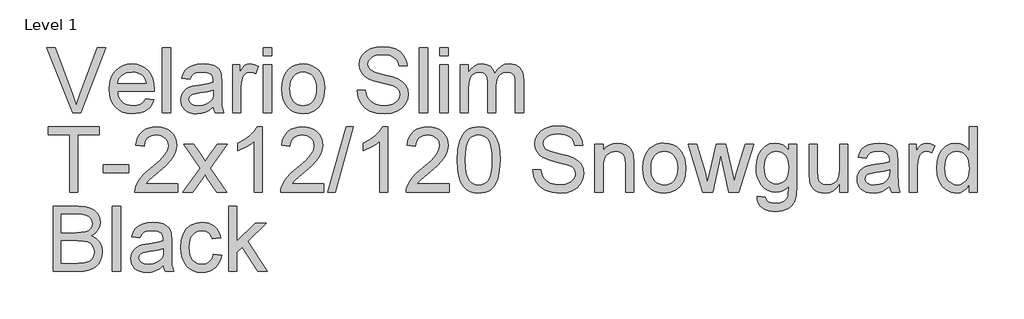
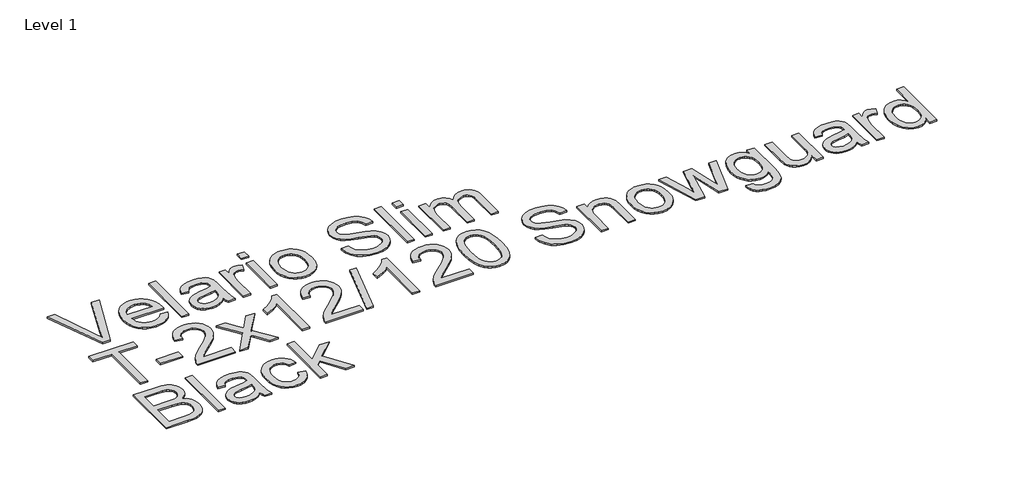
# One storey, part 6 of 13: 1 proxy.
"""IFC4 building model written with IfcOpenShell, lengths in millimetres."""

from ifc_helpers import new_model, si_unit, frame, origin, place, context, project, spatial, polyline, outline, extrude, element, save

model = new_model("IFC4")

# Units and contexts
model_context = context("Model", 3, world=origin())
ifc_project = project(units=[si_unit("LENGTHUNIT", "METRE", prefix="MILLI")], contexts=[model_context])

# Site, building, storey
site = spatial("IfcSite", under=ifc_project)
building = spatial("IfcBuilding", under=site)
storey = spatial("IfcBuildingStorey", under=building, Name="Level 1", Elevation=4000.0)

# Proxy
placement = place(None, origin())
element("IfcBuildingElementProxy", 1, Name="Elysium 400mm Arial", ObjectType="Elysium 400mm Arial", at=placement, inside=storey, context=model_context, shape_type="SweptSolid", body=[
    extrude(outline(polyline([(56201.8504181, -17959.2083158), (56041.9443775, -17557.3830752), (56095.7041998, -17557.3830752), (56202.7333349, -17846.8816799), (56224.4138471, -17912.1194204), (56245.8000538, -17846.8816799), (56353.1234945, -17557.3830752), (56406.8833168, -17557.3830752), (56253.7463049, -17959.2083158), (56201.8504181, -17959.2083158)])), frame((0.0, 0.0, 4000.0), z_axis=(0.0, 0.0, 1.0), x_axis=(1.0, 0.0, 0.0)), (0.0, 0.0, 1.0), 10.0),
    extrude(outline(polyline([(56653.9038138, -17871.3090444), (56703.1509502, -17877.5875638), (56695.6001723, -17897.3121701), (56685.4067753, -17914.6945943), (56672.5707594, -17929.7348366), (56657.0921244, -17942.4328968), (56639.130286, -17952.5189948), (56618.8446596, -17959.7233505), (56571.3020431, -17965.4868351), (56540.1363068, -17963.000566), (56512.3673475, -17955.5417585), (56487.9951653, -17943.1104128), (56467.0197602, -17925.7065287), (56450.1523708, -17903.8144843), (56438.1042354, -17877.9186575), (56430.8753542, -17848.0190484), (56428.4657271, -17814.1156569), (56430.8998797, -17779.0626341), (56438.2023373, -17748.1666779), (56450.3731, -17721.4277882), (56467.4121677, -17698.845965), (56488.3323905, -17680.9055864), (56512.1466183, -17668.0910302), (56538.8548512, -17660.4022965), (56568.457089, -17657.8393853), (56597.1058994, -17660.3961652), (56623.0139889, -17668.0665048), (56646.1813576, -17680.8504041), (56666.6080054, -17698.7478632), (56683.2822568, -17721.2806354), (56695.1924364, -17747.9704741), (56702.3385441, -17778.8173794), (56704.7205801, -17813.8213513), (56704.4262745, -17827.3594087), (56478.6938822, -17827.3594087), (56481.6032157, -17847.402846), (56487.38816, -17864.9569486), (56496.0487153, -17880.0217163), (56507.5848816, -17892.5971492), (56521.3589966, -17902.5115689), (56536.7333983, -17909.5932973), (56572.2830618, -17915.2586801), (56599.0158201, -17912.6344552), (56621.5301982, -17904.7617805), (56639.8261961, -17891.1501466), (56653.9038138, -17871.3090444)]), holes=[polyline([(56478.6938822, -17777.1312536), (56654.492425, -17777.1312536), (56647.6988708, -17750.594699), (56634.3815426, -17731.6119881), (56620.6840696, -17721.3112922), (56605.0981358, -17713.9536523), (56587.623741, -17709.5390684), (56568.2608853, -17708.0675404), (56534.403479, -17712.7641672), (56506.4076592, -17726.8540476), (56486.9467016, -17748.8166027), (56478.6938822, -17777.1312536)])]), frame((0.0, 0.0, 4000.0), z_axis=(0.0, 0.0, 1.0), x_axis=(1.0, 0.0, 0.0)), (0.0, 0.0, 1.0), 10.0),
    extrude(outline(polyline([(56754.9487351, -17959.2083158), (56754.9487351, -17557.3830752), (56805.1768902, -17557.3830752), (56805.1768902, -17959.2083158), (56754.9487351, -17959.2083158)])), frame((0.0, 0.0, 4000.0), z_axis=(0.0, 0.0, 1.0), x_axis=(1.0, 0.0, 0.0)), (0.0, 0.0, 1.0), 10.0),
    extrude(outline(polyline([(57068.8747043, -17921.5371994), (57044.8765355, -17942.1140657), (57020.1671282, -17955.5785467), (56994.1823966, -17963.009763), (56966.358255, -17965.4868351), (56943.9940954, -17963.9969131), (56924.3829194, -17959.5271468), (56907.5247269, -17952.0775364), (56893.4195181, -17941.6480818), (56882.2818907, -17928.9009707), (56874.3264426, -17914.4983906), (56869.5531737, -17898.4403415), (56867.962084, -17880.7268234), (56870.3655797, -17859.9047025), (56877.5760669, -17840.995568), (56888.6983658, -17824.8087602), (56902.8372972, -17812.1536195), (56919.4533006, -17802.5886877), (56938.0068159, -17795.6725062), (56981.4659423, -17788.1186625), (57032.8222688, -17780.1724114), (57068.5803987, -17770.8527342), (57068.8747043, -17759.6691216), (57065.4166136, -17737.2528453), (57055.0423413, -17722.5866165), (57031.8412502, -17711.6973094), (56999.5166855, -17708.0675404), (56969.5956166, -17710.4832988), (56948.6999193, -17717.7305741), (56934.4506233, -17731.1337415), (56924.4687585, -17752.0171761), (56874.2406034, -17745.7386567), (56882.9594067, -17718.2701344), (56895.9701666, -17696.687724), (56914.4868937, -17680.1820851), (56939.7235986, -17667.9438774), (56970.588898, -17660.3655083), (57005.9914086, -17657.8393853), (57039.9469168, -17660.0712027), (57066.8636161, -17666.7666551), (57087.1584395, -17676.834359), (57101.2483199, -17689.1829313), (57110.5925226, -17704.4500341), (57116.6503128, -17723.2733295), (57119.1028594, -17767.2229652), (57119.1028594, -17829.7138534), (57121.6535079, -17916.9754627), (57131.6598982, -17959.2083158), (57081.4317431, -17959.2083158), (57073.3873902, -17941.7461837), (57068.8747043, -17921.5371994)]), holes=[polyline([(57068.8747043, -17821.0808893), (57035.1276627, -17829.4440733), (56987.8425635, -17836.4828822), (56944.6286918, -17844.625337), (56933.3837655, -17850.1926178), (56925.0573697, -17857.8690888), (56919.9070218, -17867.0661387), (56918.1902391, -17877.1951563), (56921.9303727, -17892.1311653), (56933.1507736, -17904.369373), (56951.606187, -17912.5363533), (56977.0513583, -17915.2586801), (57004.0293713, -17912.2543104), (57027.8681246, -17903.2412016), (57047.1941921, -17889.9606615), (57060.6341477, -17874.1539985), (57066.593836, -17857.8690888), (57068.5803987, -17835.3056598), (57068.8747043, -17821.0808893)])]), frame((0.0, 0.0, 4000.0), z_axis=(0.0, 0.0, 1.0), x_axis=(1.0, 0.0, 0.0)), (0.0, 0.0, 1.0), 10.0),
    extrude(outline(polyline([(57188.1665726, -17959.2083158), (57188.1665726, -17664.1179047), (57232.1162083, -17664.1179047), (57232.1162083, -17707.7732348), (57248.3520671, -17682.4629535), (57263.3126015, -17667.55147), (57278.3221869, -17660.2674065), (57294.7051984, -17657.8393853), (57319.7211741, -17661.714409), (57345.1295573, -17673.33948), (57328.3541383, -17718.3682362), (57310.6958025, -17710.6427143), (57293.0374667, -17708.0675404), (57278.0401441, -17710.5446125), (57264.6369767, -17717.9758288), (57253.8089833, -17729.7971036), (57246.5371825, -17745.4443511), (57240.4303414, -17773.5014846), (57238.3947277, -17804.1092666), (57238.3947277, -17959.2083158), (57188.1665726, -17959.2083158)])), frame((0.0, 0.0, 4000.0), z_axis=(0.0, 0.0, 1.0), x_axis=(1.0, 0.0, 0.0)), (0.0, 0.0, 1.0), 10.0),
    extrude(outline(polyline([(57376.5221542, -17607.6112302), (57376.5221542, -17557.3830752), (57426.7503093, -17557.3830752), (57426.7503093, -17607.6112302), (57376.5221542, -17607.6112302)])), frame((0.0, 0.0, 4000.0), z_axis=(0.0, 0.0, 1.0), x_axis=(1.0, 0.0, 0.0)), (0.0, 0.0, 1.0), 10.0),
    extrude(outline(polyline([(57376.5221542, -17959.2083158), (57376.5221542, -17664.1179047), (57426.7503093, -17664.1179047), (57426.7503093, -17959.2083158), (57376.5221542, -17959.2083158)])), frame((0.0, 0.0, 4000.0), z_axis=(0.0, 0.0, 1.0), x_axis=(1.0, 0.0, 0.0)), (0.0, 0.0, 1.0), 10.0),
    extrude(outline(polyline([(57489.5355031, -17811.6631102), (57492.2516985, -17773.4463023), (57500.4002847, -17740.5147324), (57513.9812617, -17712.8684004), (57532.9946295, -17690.5073065), (57552.1367559, -17676.215091), (57573.2654452, -17666.0063656), (57596.3806972, -17659.8811304), (57621.482512, -17657.8393853), (57649.1932233, -17660.3256545), (57674.2490529, -17667.7844619), (57696.6500007, -17680.2158077), (57716.3960668, -17697.6196917), (57732.5123639, -17719.4075029), (57744.0240046, -17744.99063), (57750.9309891, -17774.369073), (57753.2333172, -17807.5428319), (57749.1620898, -17858.2860217), (57736.9484076, -17896.9136312), (57716.9478898, -17925.8414188), (57689.5161557, -17947.4851428), (57656.9340736, -17960.9864121), (57621.482512, -17965.4868351), (57593.3671306, -17963.009763), (57568.0783091, -17955.5785467), (57545.6160476, -17943.1931862), (57525.9803461, -17925.8536815), (57510.0357273, -17903.8543382), (57498.6467138, -17877.4894619), (57491.8133058, -17846.7590526), (57489.5355031, -17811.6631102)]), holes=[polyline([(57539.7636582, -17811.5650084), (57541.2167921, -17835.9279935), (57545.5761937, -17857.0229602), (57552.8418631, -17874.8499086), (57563.0138003, -17889.4088385), (57575.386898, -17900.7181442), (57589.2560493, -17908.7962197), (57604.6212539, -17913.643065), (57621.482512, -17915.2586801), (57638.257931, -17913.6338679), (57653.561822, -17908.7594315), (57667.394185, -17900.6353708), (57679.7550201, -17889.2616857), (57689.9269572, -17874.5586687), (57697.1926266, -17856.4466118), (57701.5520283, -17834.925515), (57703.0051622, -17809.9953785), (57701.5428312, -17786.4049456), (57697.1558384, -17765.8618018), (57689.8441838, -17748.3659473), (57679.6078673, -17733.9173819), (57667.201047, -17722.6080762), (57653.377881, -17714.5300008), (57638.1383694, -17709.6831555), (57621.482512, -17708.0675404), (57604.6212539, -17709.6770241), (57589.2560493, -17714.5054753), (57575.386898, -17722.5528939), (57563.0138003, -17733.81928), (57552.8418631, -17748.3352904), (57545.5761937, -17766.1315819), (57541.2167921, -17787.2081546), (57539.7636582, -17811.5650084)])]), frame((0.0, 0.0, 4000.0), z_axis=(0.0, 0.0, 1.0), x_axis=(1.0, 0.0, 0.0)), (0.0, 0.0, 1.0), 10.0),
    extrude(outline(polyline([(57954.1459375, -17821.0808893), (58004.3740926, -17821.0808893), (58010.1375772, -17848.9540818), (58020.5609004, -17871.3580953), (58036.8212846, -17889.1390584), (58060.0959521, -17903.1430997), (58088.5454931, -17912.229785), (58120.3304975, -17915.2586801), (58148.3140546, -17912.965549), (58172.8149955, -17906.0861556), (58192.6683605, -17895.1968486), (58206.70919, -17880.8739762), (58215.0601112, -17864.4296511), (58217.8437517, -17847.1759855), (58215.759087, -17830.3637783), (58209.5050931, -17815.8324395), (58196.8009016, -17803.4348163), (58175.365644, -17793.0237558), (58102.2307033, -17773.8448411), (58054.222103, -17761.1529123), (58023.5039564, -17749.0741201), (57998.5002434, -17732.1760738), (57980.780594, -17711.6973094), (57970.2223807, -17688.0792853), (57966.7029763, -17661.7634599), (57971.0562466, -17632.345163), (57984.1160574, -17604.9134289), (58005.5390523, -17581.6632868), (58034.9818746, -17564.789766), (58070.3230716, -17554.5258583), (58109.4411904, -17551.1045558), (58151.8211963, -17554.6852739), (58188.9037014, -17565.4274281), (58219.3643306, -17583.1102893), (58241.8787087, -17607.5131284), (58256.1280046, -17637.1153662), (58261.7933874, -17670.3964241), (58211.5652323, -17670.3964241), (58202.3436569, -17640.4263042), (58193.9804729, -17628.5682412), (58183.1156913, -17618.7948429), (58153.0719951, -17605.6982439), (58111.4032277, -17601.3327108), (58068.7534418, -17605.6491929), (58052.450138, -17611.0447955), (58039.4945604, -17618.5986391), (58022.5719886, -17637.6549265), (58016.9311314, -17660.2919319), (58020.9287824, -17679.5934739), (58032.9217354, -17695.1180941), (58061.2731745, -17708.9995081), (58114.9348949, -17723.1752276), (58170.3133979, -17736.6397087), (58203.8151849, -17748.387407), (58232.4486669, -17766.6098285), (58252.4246592, -17789.0996812), (58264.1600949, -17815.6117103), (58268.0719068, -17845.9006612), (58263.5714837, -17876.8640625), (58250.0702145, -17905.9880538), (58228.1199221, -17931.0530804), (58198.2724295, -17949.8395876), (58162.3794095, -17961.5750233), (58122.2925348, -17965.4868351), (58073.0821866, -17961.2684549), (58032.5783789, -17948.6133143), (58000.3151279, -17927.4723623), (57975.8264498, -17897.796548), (57960.1056259, -17861.6460106), (57954.1459375, -17821.0808893)])), frame((0.0, 0.0, 4000.0), z_axis=(0.0, 0.0, 1.0), x_axis=(1.0, 0.0, 0.0)), (0.0, 0.0, 1.0), 10.0),
    extrude(outline(polyline([(58337.13562, -17959.2083158), (58337.13562, -17557.3830752), (58387.3637751, -17557.3830752), (58387.3637751, -17959.2083158), (58337.13562, -17959.2083158)])), frame((0.0, 0.0, 4000.0), z_axis=(0.0, 0.0, 1.0), x_axis=(1.0, 0.0, 0.0)), (0.0, 0.0, 1.0), 10.0),
    extrude(outline(polyline([(58462.7060077, -17607.6112302), (58462.7060077, -17557.3830752), (58512.9341627, -17557.3830752), (58512.9341627, -17607.6112302), (58462.7060077, -17607.6112302)])), frame((0.0, 0.0, 4000.0), z_axis=(0.0, 0.0, 1.0), x_axis=(1.0, 0.0, 0.0)), (0.0, 0.0, 1.0), 10.0),
    extrude(outline(polyline([(58462.7060077, -17959.2083158), (58462.7060077, -17664.1179047), (58512.9341627, -17664.1179047), (58512.9341627, -17959.2083158), (58462.7060077, -17959.2083158)])), frame((0.0, 0.0, 4000.0), z_axis=(0.0, 0.0, 1.0), x_axis=(1.0, 0.0, 0.0)), (0.0, 0.0, 1.0), 10.0),
    extrude(outline(polyline([(58588.2763954, -17959.2083158), (58588.2763954, -17664.1179047), (58638.5045504, -17664.1179047), (58638.5045504, -17712.678328), (58653.6122377, -17690.3724164), (58673.036407, -17672.8980216), (58696.1148709, -17661.6040444), (58722.1854416, -17657.8393853), (58750.1199478, -17661.6776208), (58772.5116985, -17673.1923272), (58789.2380666, -17691.6232152), (58800.1764246, -17716.2099952), (58818.4846852, -17690.6728534), (58839.3681198, -17672.4320378), (58862.8267284, -17661.4875484), (58888.8605109, -17657.8393853), (58908.9683276, -17659.3568985), (58926.6174663, -17663.9094382), (58941.807927, -17671.4970044), (58954.5397098, -17682.119597), (58964.604348, -17695.8998434), (58971.7933753, -17712.9603709), (58976.1067917, -17733.3011796), (58977.5445972, -17756.9222693), (58977.5445972, -17959.2083158), (58927.3164421, -17959.2083158), (58927.3164421, -17778.5046797), (58926.1514825, -17753.4519158), (58922.6566035, -17736.5661323), (58916.108304, -17725.0023749), (58905.7830827, -17715.9156896), (58892.5025426, -17710.0295777), (58877.088287, -17708.0675404), (58849.8772821, -17713.095261), (58827.6939978, -17728.1784228), (58819.0886248, -17739.7483115), (58812.9419298, -17754.3470954), (58808.0245738, -17792.6313483), (58808.0245738, -17959.2083158), (58757.7964187, -17959.2083158), (58757.7964187, -17772.9128734), (58754.890151, -17744.5123834), (58746.1713477, -17724.2543482), (58730.8306685, -17712.1142423), (58708.058773, -17708.0675404), (58688.70818, -17710.7653417), (58670.878166, -17718.8587456), (58656.1628862, -17732.1515483), (58646.1564959, -17750.4475462), (58640.4175368, -17775.8314039), (58638.5045504, -17810.387786), (58638.5045504, -17959.2083158), (58588.2763954, -17959.2083158)])), frame((0.0, 0.0, 4000.0), z_axis=(0.0, 0.0, 1.0), x_axis=(1.0, 0.0, 0.0)), (0.0, 0.0, 1.0), 10.0),
    extrude(outline(polyline([(56183.6034712, -18447.1075871), (56183.6034712, -18095.5105016), (56051.7545641, -18095.5105016), (56051.7545641, -18045.2823465), (56365.6805333, -18045.2823465), (56365.6805333, -18095.5105016), (56233.8316262, -18095.5105016), (56233.8316262, -18447.1075871), (56183.6034712, -18447.1075871)])), frame((0.0, 0.0, 4000.0), z_axis=(0.0, 0.0, 1.0), x_axis=(1.0, 0.0, 0.0)), (0.0, 0.0, 1.0), 10.0),
    extrude(outline(polyline([(56390.7946108, -18327.8157188), (56390.7946108, -18277.5875638), (56547.7575954, -18277.5875638), (56547.7575954, -18327.8157188), (56390.7946108, -18327.8157188)])), frame((0.0, 0.0, 4000.0), z_axis=(0.0, 0.0, 1.0), x_axis=(1.0, 0.0, 0.0)), (0.0, 0.0, 1.0), 10.0),
    extrude(outline(polyline([(56849.1265259, -18396.8794321), (56849.1265259, -18447.1075871), (56585.4287117, -18447.1075871), (56586.5323577, -18429.4247259), (56590.8243143, -18412.4776287), (56603.2096748, -18385.4137765), (56621.3339945, -18359.1592648), (56647.551718, -18331.6784798), (56684.2172902, -18300.9358077), (56738.4185708, -18252.7923173), (56770.9393392, -18217.2549165), (56787.1997234, -18188.4129681), (56792.6198514, -18160.3558346), (56787.5062917, -18135.2049689), (56772.1656125, -18114.2970088), (56748.5843766, -18100.2071284), (56718.7491468, -18095.5105016), (56687.4178635, -18100.0967638), (56663.0763382, -18113.8555504), (56647.367777, -18135.7077409), (56641.9353862, -18164.5742148), (56591.7072311, -18158.2956955), (56596.0267789, -18132.3661462), (56603.8841252, -18109.7107466), (56615.27927, -18090.3294968), (56630.2122133, -18074.2223968), (56648.3395986, -18061.5611248), (56669.3180694, -18052.5173591), (56693.1476256, -18047.0910997), (56719.8282673, -18045.2823465), (56746.7480323, -18047.2934348), (56770.7063473, -18053.3266995), (56791.7032121, -18063.3821407), (56809.7386269, -18077.4597584), (56824.2239805, -18094.5172202), (56834.5706616, -18113.5121939), (56840.7786703, -18134.4446794), (56842.8480065, -18157.3146768), (56840.6161891, -18181.3373711), (56833.9207368, -18204.9431324), (56822.0381483, -18228.953564), (56804.2449225, -18254.1902689), (56775.8812207, -18284.3198043), (56732.2872042, -18323.0087274), (56674.5052055, -18371.3238961), (56651.8436746, -18396.8794321), (56849.1265259, -18396.8794321)])), frame((0.0, 0.0, 4000.0), z_axis=(0.0, 0.0, 1.0), x_axis=(1.0, 0.0, 0.0)), (0.0, 0.0, 1.0), 10.0),
    extrude(outline(polyline([(56880.5191228, -18447.1075871), (56987.8425635, -18298.7775667), (56886.7976422, -18152.0171761), (56947.2283913, -18152.0171761), (56995.9850184, -18222.6505191), (57018.7446511, -18256.0051534), (57038.4631261, -18228.7328348), (57093.9887819, -18152.0171761), (57154.419531, -18152.0171761), (57048.2733126, -18298.7775667), (57150.4954563, -18447.1075871), (57090.0647073, -18447.1075871), (57028.5548377, -18357.9329915), (57017.2731232, -18341.6480818), (56940.9498719, -18447.1075871), (56880.5191228, -18447.1075871)])), frame((0.0, 0.0, 4000.0), z_axis=(0.0, 0.0, 1.0), x_axis=(1.0, 0.0, 0.0)), (0.0, 0.0, 1.0), 10.0),
    extrude(outline(polyline([(57370.2436348, -18447.1075871), (57320.0154797, -18447.1075871), (57320.0154797, -18133.9664328), (57299.046206, -18150.9257928), (57272.436075, -18167.8606273), (57219.5591696, -18193.2199595), (57219.5591696, -18145.7386567), (57259.0083822, -18124.2788736), (57293.1846195, -18098.7478632), (57320.1258443, -18071.5981719), (57337.8700192, -18045.2823465), (57370.2436348, -18045.2823465), (57370.2436348, -18447.1075871)])), frame((0.0, 0.0, 4000.0), z_axis=(0.0, 0.0, 1.0), x_axis=(1.0, 0.0, 0.0)), (0.0, 0.0, 1.0), 10.0),
    extrude(outline(polyline([(57746.9547979, -18396.8794321), (57746.9547979, -18447.1075871), (57483.2569837, -18447.1075871), (57484.3606297, -18429.4247259), (57488.6525863, -18412.4776287), (57501.0379468, -18385.4137765), (57519.1622664, -18359.1592648), (57545.37999, -18331.6784798), (57582.0455621, -18300.9358077), (57636.2468428, -18252.7923173), (57668.7676111, -18217.2549165), (57685.0279953, -18188.4129681), (57690.4481234, -18160.3558346), (57685.3345637, -18135.2049689), (57669.9938845, -18114.2970088), (57646.4126486, -18100.2071284), (57616.5774188, -18095.5105016), (57585.2461355, -18100.0967638), (57560.9046102, -18113.8555504), (57545.196049, -18135.7077409), (57539.7636582, -18164.5742148), (57489.5355031, -18158.2956955), (57493.8550509, -18132.3661462), (57501.7123971, -18109.7107466), (57513.1075419, -18090.3294968), (57528.0404853, -18074.2223968), (57546.1678706, -18061.5611248), (57567.1463413, -18052.5173591), (57590.9758976, -18047.0910997), (57617.6565393, -18045.2823465), (57644.5763043, -18047.2934348), (57668.5346192, -18053.3266995), (57689.5314841, -18063.3821407), (57707.5668989, -18077.4597584), (57722.0522525, -18094.5172202), (57732.3989336, -18113.5121939), (57738.6069422, -18134.4446794), (57740.6762785, -18157.3146768), (57738.444461, -18181.3373711), (57731.7490087, -18204.9431324), (57719.8664203, -18228.953564), (57702.0731944, -18254.1902689), (57673.7094926, -18284.3198043), (57630.1154762, -18323.0087274), (57572.3334775, -18371.3238961), (57549.6719466, -18396.8794321), (57746.9547979, -18396.8794321)])), frame((0.0, 0.0, 4000.0), z_axis=(0.0, 0.0, 1.0), x_axis=(1.0, 0.0, 0.0)), (0.0, 0.0, 1.0), 10.0),
    extrude(outline(polyline([(57772.0688754, -18447.1075871), (57885.0822243, -18045.2823465), (57930.4052861, -18045.2823465), (57817.3919372, -18447.1075871), (57772.0688754, -18447.1075871)])), frame((0.0, 0.0, 4000.0), z_axis=(0.0, 0.0, 1.0), x_axis=(1.0, 0.0, 0.0)), (0.0, 0.0, 1.0), 10.0),
    extrude(outline(polyline([(58142.5015191, -18447.1075871), (58092.273364, -18447.1075871), (58092.273364, -18133.9664328), (58071.3040903, -18150.9257928), (58044.6939593, -18167.8606273), (57991.8170538, -18193.2199595), (57991.8170538, -18145.7386567), (58031.2662665, -18124.2788736), (58065.4425038, -18098.7478632), (58092.3837286, -18071.5981719), (58110.1279035, -18045.2823465), (58142.5015191, -18045.2823465), (58142.5015191, -18447.1075871)])), frame((0.0, 0.0, 4000.0), z_axis=(0.0, 0.0, 1.0), x_axis=(1.0, 0.0, 0.0)), (0.0, 0.0, 1.0), 10.0),
    extrude(outline(polyline([(58519.2126821, -18396.8794321), (58519.2126821, -18447.1075871), (58255.514868, -18447.1075871), (58256.618514, -18429.4247259), (58260.9104706, -18412.4776287), (58273.2958311, -18385.4137765), (58291.4201507, -18359.1592648), (58317.6378742, -18331.6784798), (58354.3034464, -18300.9358077), (58408.504727, -18252.7923173), (58441.0254954, -18217.2549165), (58457.2858796, -18188.4129681), (58462.7060077, -18160.3558346), (58457.5924479, -18135.2049689), (58442.2517687, -18114.2970088), (58418.6705328, -18100.2071284), (58388.835303, -18095.5105016), (58357.5040198, -18100.0967638), (58333.1624944, -18113.8555504), (58317.4539332, -18135.7077409), (58312.0215424, -18164.5742148), (58261.7933874, -18158.2956955), (58266.1129351, -18132.3661462), (58273.9702814, -18109.7107466), (58285.3654262, -18090.3294968), (58300.2983695, -18074.2223968), (58318.4257548, -18061.5611248), (58339.4042256, -18052.5173591), (58363.2337819, -18047.0910997), (58389.9144236, -18045.2823465), (58416.8341886, -18047.2934348), (58440.7925035, -18053.3266995), (58461.7893684, -18063.3821407), (58479.8247832, -18077.4597584), (58494.3101367, -18094.5172202), (58504.6568179, -18113.5121939), (58510.8648265, -18134.4446794), (58512.9341627, -18157.3146768), (58510.7023453, -18181.3373711), (58504.006893, -18204.9431324), (58492.1243046, -18228.953564), (58474.3310787, -18254.1902689), (58445.9673769, -18284.3198043), (58402.3733605, -18323.0087274), (58344.5913618, -18371.3238961), (58321.9298308, -18396.8794321), (58519.2126821, -18396.8794321)])), frame((0.0, 0.0, 4000.0), z_axis=(0.0, 0.0, 1.0), x_axis=(1.0, 0.0, 0.0)), (0.0, 0.0, 1.0), 10.0),
    extrude(outline(polyline([(58569.4408372, -18249.4323284), (58573.1319199, -18185.1142929), (58584.2051679, -18133.81928), (58602.5502168, -18094.7624749), (58614.4082797, -18079.5290946), (58628.0567018, -18067.1590625), (58643.5414681, -18057.5879993), (58660.9085639, -18050.7515255), (58701.2897443, -18045.2823465), (58732.2408828, -18048.5197081), (58759.9546598, -18058.2317928), (58783.1312255, -18074.0384558), (58800.4707302, -18095.5595525), (58813.5673292, -18122.6111419), (58824.0151779, -18155.009283), (58830.857783, -18196.1507528), (58833.1386513, -18249.4323284), (58829.4843569, -18313.3824819), (58818.5214734, -18364.5548674), (58800.2867892, -18403.6484608), (58788.4563173, -18418.9278263), (58774.8170924, -18431.3622377), (58759.313932, -18440.9976803), (58741.8916538, -18447.8801393), (58701.2897443, -18453.3861065), (58673.6250182, -18450.9948735), (58649.0995519, -18443.8211746), (58627.7133452, -18431.8650098), (58609.4663983, -18415.126379), (58591.9552153, -18384.8680849), (58579.4472275, -18347.1663118), (58571.9424348, -18302.0210596), (58569.4408372, -18249.4323284)]), holes=[polyline([(58619.6689923, -18249.3342265), (58621.1405203, -18292.9987537), (58625.5551042, -18328.3430164), (58632.9127441, -18355.3670146), (58643.21344, -18374.0707484), (58655.6723769, -18386.7963997), (58669.5047399, -18395.8861507), (58684.710529, -18401.3400012), (58701.2897443, -18403.1579514), (58717.8689595, -18401.3338699), (58733.0747487, -18395.8616252), (58746.9071117, -18386.7412174), (58759.3660486, -18373.9726465), (58769.6667444, -18355.2382559), (58777.0243843, -18328.220389), (58781.4389683, -18292.9190459), (58782.9104963, -18249.3342265), (58781.4880192, -18206.825462), (58777.2205881, -18172.103533), (58770.1082028, -18145.1684396), (58760.1508635, -18126.0201817), (58747.9003931, -18112.6721967), (58733.9086145, -18103.1379216), (58718.1755279, -18097.4173566), (58700.7011331, -18095.5105016), (58684.207757, -18097.1904961), (58669.2594852, -18102.2304794), (58655.8563179, -18110.6304516), (58643.9982549, -18122.3904127), (58633.3542025, -18143.2370591), (58625.7513079, -18171.3432435), (58621.1895712, -18206.708966), (58619.6689923, -18249.3342265)])]), frame((0.0, 0.0, 4000.0), z_axis=(0.0, 0.0, 1.0), x_axis=(1.0, 0.0, 0.0)), (0.0, 0.0, 1.0), 10.0),
    extrude(outline(polyline([(59034.0512716, -18308.9801607), (59084.2794267, -18308.9801607), (59090.0429113, -18336.8533532), (59100.4662345, -18359.2573667), (59116.7266187, -18377.0383298), (59140.0012863, -18391.0423711), (59168.4508272, -18400.1290563), (59200.2358316, -18403.1579514), (59228.2193887, -18400.8648203), (59252.7203296, -18393.985427), (59272.5736946, -18383.09612), (59286.6145241, -18368.7732476), (59294.9654454, -18352.3289224), (59297.7490858, -18335.0752569), (59295.6644211, -18318.2630497), (59289.4104272, -18303.7317109), (59276.7062357, -18291.3340876), (59255.2709781, -18280.9230272), (59182.1360374, -18261.7441125), (59134.1274371, -18249.0521837), (59103.4092905, -18236.9733915), (59078.4055775, -18220.0753452), (59060.6859281, -18199.5965808), (59050.1277148, -18175.9785567), (59046.6083104, -18149.6627313), (59050.9615807, -18120.2444344), (59064.0213915, -18092.8127003), (59085.4443864, -18069.5625582), (59114.8872087, -18052.6890374), (59150.2284057, -18042.4251297), (59189.3465245, -18039.0038271), (59231.7265304, -18042.5845452), (59268.8090355, -18053.3266995), (59299.2696647, -18071.0095607), (59321.7840428, -18095.4123997), (59336.0333388, -18125.0146376), (59341.6987215, -18158.2956955), (59291.4705664, -18158.2956955), (59282.2489911, -18128.3255756), (59273.885807, -18116.4675126), (59263.0210254, -18106.6941143), (59232.9773292, -18093.5975152), (59191.3085619, -18089.2319822), (59148.6587759, -18093.5484643), (59132.3554721, -18098.9440669), (59119.3998945, -18106.4979105), (59102.4773227, -18125.5541979), (59096.8364655, -18148.1912033), (59100.8341165, -18167.4927453), (59112.8270695, -18183.0173655), (59141.1785086, -18196.8987795), (59194.840229, -18211.074499), (59250.218732, -18224.53898), (59283.720519, -18236.2866784), (59312.354001, -18254.5090999), (59332.3299933, -18276.9989526), (59344.065429, -18303.5109817), (59347.9772409, -18333.7999326), (59343.4768178, -18364.7633339), (59329.9755486, -18393.8873252), (59308.0252562, -18418.9523518), (59278.1777636, -18437.738859), (59242.2847436, -18449.4742946), (59202.1978689, -18453.3861065), (59152.9875207, -18449.1677263), (59112.483713, -18436.5125857), (59080.220462, -18415.3716337), (59055.7317839, -18385.6958194), (59040.01096, -18349.545282), (59034.0512716, -18308.9801607)])), frame((0.0, 0.0, 4000.0), z_axis=(0.0, 0.0, 1.0), x_axis=(1.0, 0.0, 0.0)), (0.0, 0.0, 1.0), 10.0),
    extrude(outline(polyline([(59417.0409541, -18447.1075871), (59417.0409541, -18152.0171761), (59467.2691092, -18152.0171761), (59467.2691092, -18193.2199595), (59484.7189785, -18172.4468895), (59505.6759895, -18157.6089824), (59530.1401421, -18148.7062381), (59558.1114365, -18145.7386567), (59582.8698948, -18148.1298897), (59605.5436884, -18155.3035886), (59624.452823, -18166.3645739), (59637.917304, -18180.4176661), (59647.0530402, -18197.426077), (59652.9759403, -18217.3530184), (59655.6246907, -18265.9134418), (59655.6246907, -18447.1075871), (59605.3965356, -18447.1075871), (59605.3965356, -18272.6824705), (59603.9495331, -18246.7100016), (59599.6085256, -18228.2423255), (59591.6009608, -18215.0108364), (59579.1542866, -18204.7469287), (59563.2004708, -18198.161841), (59544.671481, -18195.9668118), (59515.2531841, -18200.8964305), (59490.1758947, -18215.6852867), (59480.154176, -18227.7579475), (59472.9958056, -18244.257455), (59468.7007833, -18265.1838091), (59467.2691092, -18290.53701), (59467.2691092, -18447.1075871), (59417.0409541, -18447.1075871)])), frame((0.0, 0.0, 4000.0), z_axis=(0.0, 0.0, 1.0), x_axis=(1.0, 0.0, 0.0)), (0.0, 0.0, 1.0), 10.0),
    extrude(outline(polyline([(59712.1313652, -18299.5623816), (59714.8475606, -18261.3455737), (59722.9961467, -18228.4140037), (59736.5771237, -18200.7676718), (59755.5904915, -18178.4065779), (59774.732618, -18164.1143623), (59795.8613073, -18153.905637), (59818.9765593, -18147.7804018), (59844.0783741, -18145.7386567), (59871.7890854, -18148.2249258), (59896.8449149, -18155.6837333), (59919.2458628, -18168.115079), (59938.9919288, -18185.5189631), (59955.1082259, -18207.3067743), (59966.6198667, -18232.8899013), (59973.5268511, -18262.2683443), (59975.8291793, -18295.4421033), (59971.7579519, -18346.1852931), (59959.5442696, -18384.8129026), (59939.5437518, -18413.7406902), (59912.1120177, -18435.3844142), (59879.5299357, -18448.8856834), (59844.0783741, -18453.3861065), (59815.9629926, -18450.9090344), (59790.6741711, -18443.4778181), (59768.2119096, -18431.0924576), (59748.5762081, -18413.7529529), (59732.6315893, -18391.7536096), (59721.2425759, -18365.3887333), (59714.4091678, -18334.6583239), (59712.1313652, -18299.5623816)]), holes=[polyline([(59762.3595202, -18299.4642797), (59763.8126541, -18323.8272649), (59768.1720558, -18344.9222316), (59775.4377252, -18362.74918), (59785.6096623, -18377.3081099), (59797.9827601, -18388.6174156), (59811.8519113, -18396.6954911), (59827.217116, -18401.5423363), (59844.0783741, -18403.1579514), (59860.8537931, -18401.5331393), (59876.1576841, -18396.6587029), (59889.9900471, -18388.5346421), (59902.3508821, -18377.1609571), (59912.5228193, -18362.45794), (59919.7884887, -18344.3458831), (59924.1478903, -18322.8247864), (59925.6010242, -18297.8946499), (59924.1386933, -18274.3042169), (59919.7517005, -18253.7610732), (59912.4400458, -18236.2652186), (59902.2037293, -18221.8166533), (59889.796909, -18210.5073476), (59875.9737431, -18202.4292721), (59860.7342314, -18197.5824269), (59844.0783741, -18195.9668118), (59827.217116, -18197.5762955), (59811.8519113, -18202.4047467), (59797.9827601, -18210.4521653), (59785.6096623, -18221.7185514), (59775.4377252, -18236.2345618), (59768.1720558, -18254.0308533), (59763.8126541, -18275.107426), (59762.3595202, -18299.4642797)])]), frame((0.0, 0.0, 4000.0), z_axis=(0.0, 0.0, 1.0), x_axis=(1.0, 0.0, 0.0)), (0.0, 0.0, 1.0), 10.0),
    extrude(outline(polyline([(60081.2886846, -18447.1075871), (59991.5254778, -18152.0171761), (60043.7156701, -18152.0171761), (60094.6305383, -18324.1859498), (60109.8363274, -18385.6958194), (60122.2952643, -18326.4422927), (60162.8113347, -18152.0171761), (60222.6534726, -18152.0171761), (60262.9733393, -18325.9517834), (60274.0588501, -18379.6135037), (60289.9513522, -18323.0087274), (60340.9643222, -18152.0171761), (60393.3507184, -18152.0171761), (60302.9007985, -18447.1075871), (60242.1757438, -18447.1075871), (60203.6217107, -18274.0558966), (60192.4380981, -18220.0998706), (60142.7004523, -18447.1075871), (60081.2886846, -18447.1075871)])), frame((0.0, 0.0, 4000.0), z_axis=(0.0, 0.0, 1.0), x_axis=(1.0, 0.0, 0.0)), (0.0, 0.0, 1.0), 10.0),
    extrude(outline(polyline([(60415.3255362, -18472.2216647), (60465.5536913, -18478.5001841), (60471.0964467, -18494.1964825), (60481.8386009, -18504.9876877), (60502.9550275, -18513.3753972), (60530.595228, -18516.1713004), (60560.0748386, -18513.0075152), (60582.0006055, -18503.5161597), (60597.2063946, -18488.3103706), (60606.5260718, -18468.0032845), (60609.9596371, -18409.4364708), (60593.2455318, -18425.9175842), (60574.5939146, -18437.6898081), (60554.0047857, -18444.7531424), (60531.4781448, -18447.1075871), (60503.9391118, -18444.3668663), (60479.6926226, -18436.1447037), (60458.7386773, -18422.4410994), (60441.0772759, -18403.2560533), (60427.0640375, -18380.2389031), (60417.0545816, -18355.0389865), (60411.048908, -18327.6563033), (60409.0470168, -18298.0908536), (60412.6399976, -18257.537995), (60423.4189401, -18220.2470234), (60441.0036995, -18188.6459601), (60465.014131, -18165.162826), (60494.6286316, -18150.594699), (60529.0255982, -18145.7386567), (60552.5148636, -18148.4855089), (60573.8336252, -18156.7260656), (60592.981883, -18170.4603268), (60609.9596371, -18189.6882924), (60609.9596371, -18152.0171761), (60660.1877922, -18152.0171761), (60660.1877922, -18406.7877205), (60656.7542269, -18465.6120515), (60646.453531, -18504.3500256), (60628.7093561, -18530.0404516), (60602.9453537, -18549.7221383), (60569.7256096, -18562.2301262), (60529.6142094, -18566.3994554), (60505.0059696, -18564.9309931), (60482.8809333, -18560.5256062), (60463.2391004, -18553.1832948), (60446.080471, -18542.9040587), (60432.2205168, -18529.6756353), (60422.4747096, -18513.4857618), (60416.8430494, -18494.3344383), (60415.3255362, -18472.2216647)]), holes=[polyline([(60459.2751719, -18294.6572883), (60464.6339863, -18340.7283769), (60471.3325043, -18358.3652528), (60480.7104295, -18372.4030166), (60492.1117056, -18383.1114484), (60504.8802766, -18390.7603282), (60519.0161422, -18395.3496561), (60534.5193026, -18396.8794321), (60549.8691789, -18395.3588531), (60563.9375995, -18390.7971164), (60576.7245645, -18383.1942218), (60588.2300739, -18372.5501694), (60597.7367578, -18358.6503614), (60604.5272463, -18341.2801999), (60609.9596371, -18296.1288163), (60604.3678308, -18252.5838508), (60597.3780729, -18235.3823019), (60587.5924118, -18221.2280421), (60575.8385821, -18210.1762538), (60562.9443181, -18202.2821193), (60548.90962, -18197.5456387), (60533.7344877, -18195.9668118), (60518.8138071, -18197.5211132), (60505.0519548, -18202.1840175), (60481.0047351, -18220.8356346), (60471.4980512, -18234.7752966), (60464.7075627, -18251.7254595), (60459.2751719, -18294.6572883)])]), frame((0.0, 0.0, 4000.0), z_axis=(0.0, 0.0, 1.0), x_axis=(1.0, 0.0, 0.0)), (0.0, 0.0, 1.0), 10.0),
    extrude(outline(polyline([(60923.8856063, -18447.1075871), (60923.8856063, -18396.3889227), (60905.7122358, -18421.3251906), (60884.5467583, -18439.1368106), (60860.389174, -18449.8237825), (60833.2394827, -18453.3861065), (60808.77533, -18450.8845089), (60786.0034345, -18443.3797162), (60766.8980963, -18432.0980017), (60753.4336152, -18418.2656387), (60744.3714554, -18401.4656943), (60738.4730808, -18381.2812355), (60735.5300248, -18334.5847475), (60735.5300248, -18152.0171761), (60785.7581799, -18152.0171761), (60785.7581799, -18310.942198), (60788.7993377, -18362.1513717), (60796.1201894, -18379.233359), (60808.6649654, -18392.2195935), (60825.5998, -18400.4233619), (60846.0908271, -18403.1579514), (60867.7590766, -18400.3620483), (60888.0293745, -18391.9743388), (60904.7434799, -18378.7673752), (60915.7431515, -18361.5137096), (60921.8499926, -18337.8834228), (60923.8856063, -18305.5465954), (60923.8856063, -18152.0171761), (60974.1137614, -18152.0171761), (60974.1137614, -18447.1075871), (60923.8856063, -18447.1075871)])), frame((0.0, 0.0, 4000.0), z_axis=(0.0, 0.0, 1.0), x_axis=(1.0, 0.0, 0.0)), (0.0, 0.0, 1.0), 10.0),
    extrude(outline(polyline([(61231.5330562, -18409.4364708), (61207.5348873, -18430.0133371), (61182.82548, -18443.4778181), (61156.8407484, -18450.9090344), (61129.0166068, -18453.3861065), (61106.6524472, -18451.8961844), (61087.0412712, -18447.4264182), (61070.1830788, -18439.9768078), (61056.0778699, -18429.5473532), (61044.9402425, -18416.8002421), (61036.9847944, -18402.397662), (61032.2115255, -18386.3396129), (61030.6204359, -18368.6260948), (61033.0239316, -18347.8039739), (61040.2344187, -18328.8948393), (61051.3567177, -18312.7080316), (61065.495649, -18300.0528909), (61082.1116525, -18290.4879591), (61100.6651678, -18283.5717775), (61144.1242941, -18276.0179339), (61195.4806206, -18268.0716828), (61231.2387506, -18258.7520056), (61231.5330562, -18247.5683929), (61228.0749654, -18225.1521167), (61217.7006931, -18210.4858878), (61194.499602, -18199.5965808), (61162.1750373, -18195.9668118), (61132.2539684, -18198.3825702), (61111.3582711, -18205.6298455), (61097.1089751, -18219.0330129), (61087.1271103, -18239.9164474), (61036.8989553, -18233.6379281), (61045.6177585, -18206.1694058), (61058.6285184, -18184.5869954), (61077.1452455, -18168.0813565), (61102.3819504, -18155.8431488), (61133.2472498, -18148.2647797), (61168.6497605, -18145.7386567), (61202.6052686, -18147.9704741), (61229.5219679, -18154.6659264), (61249.8167913, -18164.7336304), (61263.9066717, -18177.0822027), (61273.2508744, -18192.3493055), (61279.3086646, -18211.1726009), (61281.7612112, -18255.1222366), (61281.7612112, -18317.6131248), (61284.3118597, -18404.8747341), (61294.31825, -18447.1075871), (61244.0900949, -18447.1075871), (61236.045742, -18429.6454551), (61231.5330562, -18409.4364708)]), holes=[polyline([(61231.5330562, -18308.9801607), (61197.7860145, -18317.3433447), (61150.5009154, -18324.3821535), (61107.2870437, -18332.5246084), (61096.0421173, -18338.0918892), (61087.7157215, -18345.7683602), (61082.5653736, -18354.9654101), (61080.8485909, -18365.0944277), (61084.5887246, -18380.0304367), (61095.8091254, -18392.2686444), (61114.2645388, -18400.4356247), (61139.7097102, -18403.1579514), (61166.6877232, -18400.1535818), (61190.5264764, -18391.1404729), (61209.8525439, -18377.8599329), (61223.2924995, -18362.0532698), (61229.2521878, -18345.7683602), (61231.2387506, -18323.2049312), (61231.5330562, -18308.9801607)])]), frame((0.0, 0.0, 4000.0), z_axis=(0.0, 0.0, 1.0), x_axis=(1.0, 0.0, 0.0)), (0.0, 0.0, 1.0), 10.0),
    extrude(outline(polyline([(61350.8249245, -18447.1075871), (61350.8249245, -18152.0171761), (61394.7745602, -18152.0171761), (61394.7745602, -18195.6725062), (61411.0104189, -18170.3622249), (61425.9709534, -18155.4507414), (61440.9805388, -18148.1666779), (61457.3635503, -18145.7386567), (61482.3795259, -18149.6136804), (61507.7879091, -18161.2387514), (61491.0124901, -18206.2675076), (61473.3541543, -18198.5419857), (61455.6958186, -18195.9668118), (61440.6984959, -18198.4438839), (61427.2953285, -18205.8751002), (61416.4673351, -18217.6963749), (61409.1955344, -18233.3436225), (61403.0886933, -18261.400756), (61401.0530795, -18292.008538), (61401.0530795, -18447.1075871), (61350.8249245, -18447.1075871)])), frame((0.0, 0.0, 4000.0), z_axis=(0.0, 0.0, 1.0), x_axis=(1.0, 0.0, 0.0)), (0.0, 0.0, 1.0), 10.0),
    extrude(outline(polyline([(61721.2575681, -18447.1075871), (61721.2575681, -18399.7243862), (61706.2295886, -18423.2013888), (61688.0255612, -18439.9706764), (61666.645486, -18450.032249), (61642.0893628, -18453.3861065), (61609.6176453, -18448.5300642), (61579.8927801, -18433.9619372), (61554.7296517, -18410.6995323), (61535.9431444, -18379.7606565), (61524.244497, -18342.3961086), (61520.3449478, -18299.8566872), (61523.9379287, -18257.8445633), (61534.7168711, -18219.9036669), (61552.6695125, -18188.1922389), (61577.78359, -18164.8685204), (61608.1583801, -18150.5211226), (61641.8931591, -18145.7386567), (61666.4676763, -18149.1599592), (61688.1972395, -18159.4238669), (61706.6158647, -18175.1569536), (61721.2575681, -18194.9857931), (61721.2575681, -18045.2823465), (61771.4857232, -18045.2823465), (61771.4857232, -18447.1075871), (61721.2575681, -18447.1075871)]), holes=[polyline([(61570.5731029, -18299.6604835), (61571.9894486, -18324.0173372), (61576.2384856, -18345.0939099), (61583.3202141, -18362.8902014), (61593.2346338, -18377.4062118), (61617.9317784, -18396.7200165), (61631.807061, -18401.5484677), (61646.7001505, -18403.1579514), (61661.6637506, -18401.6220441), (61675.4562597, -18397.0143221), (61699.528005, -18378.5834342), (61709.0346889, -18364.6744291), (61715.8251774, -18347.521931), (61721.2575681, -18303.4864562), (61715.7270755, -18255.3429658), (61708.8139597, -18236.8078446), (61699.1355975, -18221.9638061), (61687.4338844, -18210.5901211), (61674.4507156, -18202.4660603), (61660.1860913, -18197.5916239), (61644.6400113, -18195.9668118), (61629.4526163, -18197.5272446), (61615.5773337, -18202.2085429), (61603.0141635, -18210.0107069), (61591.7631058, -18220.9337365), (61582.4924796, -18235.216755), (61575.8706037, -18253.0988856), (61570.5731029, -18299.6604835)])]), frame((0.0, 0.0, 4000.0), z_axis=(0.0, 0.0, 1.0), x_axis=(1.0, 0.0, 0.0)), (0.0, 0.0, 1.0), 10.0),
    extrude(outline(polyline([(56083.147161, -18935.0068585), (56083.147161, -18533.1816179), (56236.4803766, -18533.1816179), (56278.651916, -18536.1369366), (56311.5773545, -18545.0028927), (56336.8140594, -18560.0002154), (56355.9193977, -18581.3496338), (56367.9491389, -18606.4637114), (56371.9590527, -18632.7550113), (56368.5868011, -18656.9493838), (56358.4700462, -18679.6967539), (56341.5352117, -18699.5991698), (56317.7087211, -18715.2586801), (56346.1705248, -18730.1211127), (56367.2011122, -18752.7335926), (56380.1873466, -18781.6000665), (56384.5160914, -18815.2244809), (56381.5607728, -18843.2448262), (56372.6948167, -18869.2295578), (56359.4633276, -18891.327003), (56343.4114099, -18907.685489), (56323.7542486, -18919.5312892), (56299.7070288, -18928.090677), (56270.4849357, -18933.2778131), (56235.3031542, -18935.0068585), (56083.147161, -18935.0068585)]), holes=[polyline([(56133.3753161, -18696.4231219), (56225.1005602, -18696.4231219), (56278.6641787, -18692.1066398), (56297.4138977, -18684.6631608), (56310.8906415, -18673.5163363), (56319.0208336, -18658.8378447), (56321.7308976, -18640.7993642), (56319.2047746, -18623.2881813), (56311.6264055, -18608.0333412), (56299.3391468, -18596.1262273), (56282.6863552, -18588.6582228), (56257.1308193, -18584.7218854), (56218.1353278, -18583.409773), (56133.3753161, -18583.409773), (56133.3753161, -18696.4231219)]), polyline([(56133.3753161, -18884.7787034), (56236.3822747, -18884.7787034), (56273.6609836, -18882.8166661), (56305.2007333, -18871.8783081), (56316.7767534, -18862.4482663), (56326.0964306, -18849.5601338), (56332.2400599, -18833.7902589), (56334.2879364, -18815.7149902), (56331.8844407, -18794.721191), (56324.6739536, -18776.6704478), (56312.0801266, -18762.5560419), (56293.5266113, -18753.3712548), (56267.2475741, -18748.3312714), (56231.4771815, -18746.651277), (56133.3753161, -18746.651277), (56133.3753161, -18884.7787034)])]), frame((0.0, 0.0, 4000.0), z_axis=(0.0, 0.0, 1.0), x_axis=(1.0, 0.0, 0.0)), (0.0, 0.0, 1.0), 10.0),
    extrude(outline(polyline([(56447.3012853, -18935.0068585), (56447.3012853, -18533.1816179), (56497.5294404, -18533.1816179), (56497.5294404, -18935.0068585), (56447.3012853, -18935.0068585)])), frame((0.0, 0.0, 4000.0), z_axis=(0.0, 0.0, 1.0), x_axis=(1.0, 0.0, 0.0)), (0.0, 0.0, 1.0), 10.0),
    extrude(outline(polyline([(56761.2272545, -18897.3357422), (56737.2290857, -18917.9126085), (56712.5196783, -18931.3770895), (56686.5349468, -18938.8083058), (56658.7108052, -18941.2853779), (56636.3466456, -18939.7954558), (56616.7354695, -18935.3256896), (56599.8772771, -18927.8760792), (56585.7720683, -18917.4466246), (56574.6344409, -18904.6995135), (56566.6789927, -18890.2969334), (56561.9057238, -18874.2388843), (56560.3146342, -18856.5253662), (56562.7181299, -18835.7032453), (56569.928617, -18816.7941107), (56581.050916, -18800.6073029), (56595.1898474, -18787.9521623), (56611.8058508, -18778.3872304), (56630.3593661, -18771.4710489), (56673.8184925, -18763.9172053), (56725.174819, -18755.9709542), (56760.9329489, -18746.651277), (56761.2272545, -18735.4676643), (56757.7691638, -18713.0513881), (56747.3948915, -18698.3851592), (56724.1938003, -18687.4958522), (56691.8692357, -18683.8660831), (56661.9481667, -18686.2818416), (56641.0524694, -18693.5291169), (56626.8031735, -18706.9322842), (56616.8213087, -18727.8157188), (56566.5931536, -18721.5371994), (56575.3119569, -18694.0686771), (56588.3227168, -18672.4862668), (56606.8394439, -18655.9806279), (56632.0761487, -18643.7424202), (56662.9414481, -18636.1640511), (56698.3439588, -18633.6379281), (56732.299467, -18635.8697455), (56759.2161663, -18642.5651978), (56779.5109897, -18652.6329017), (56793.6008701, -18664.9814741), (56802.9450728, -18680.2485769), (56809.002863, -18699.0718723), (56811.4554096, -18743.021508), (56811.4554096, -18805.5123962), (56814.0060581, -18892.7740055), (56824.0124484, -18935.0068585), (56773.7842933, -18935.0068585), (56765.7399403, -18917.5447265), (56761.2272545, -18897.3357422)]), holes=[polyline([(56761.2272545, -18796.8794321), (56727.4802128, -18805.2426161), (56680.1951137, -18812.2814249), (56636.981242, -18820.4238797), (56625.7363157, -18825.9911606), (56617.4099199, -18833.6676316), (56612.2595719, -18842.8646815), (56610.5427893, -18852.9936991), (56614.2829229, -18867.9297081), (56625.5033238, -18880.1679158), (56643.9587372, -18888.3348961), (56669.4039085, -18891.0572228), (56696.3819215, -18888.0528532), (56720.2206748, -18879.0397443), (56739.5467423, -18865.7592043), (56752.9866978, -18849.9525412), (56758.9463861, -18833.6676316), (56760.9329489, -18811.1042025), (56761.2272545, -18796.8794321)])]), frame((0.0, 0.0, 4000.0), z_axis=(0.0, 0.0, 1.0), x_axis=(1.0, 0.0, 0.0)), (0.0, 0.0, 1.0), 10.0),
    extrude(outline(polyline([(57068.8747043, -18828.272029), (57119.1028594, -18834.5505484), (57113.6398118, -18858.2513459), (57105.0988181, -18879.2236853), (57093.4798785, -18897.4675666), (57078.7829927, -18912.9829897), (57061.627429, -18925.3652846), (57042.6324554, -18934.2097809), (57021.7980717, -18939.5164786), (56999.1242781, -18941.2853779), (56970.9537143, -18938.8175028), (56945.6955496, -18931.4138777), (56923.3497841, -18919.0745024), (56903.9164177, -18901.7993771), (56888.1863967, -18879.9134641), (56876.9506675, -18853.7417258), (56870.2092299, -18823.2841623), (56867.962084, -18788.5407735), (56871.8003195, -18743.8431111), (56883.315026, -18705.105137), (56902.6901444, -18673.8229047), (56930.1096158, -18651.4924676), (56962.912427, -18638.1015629), (56998.437565, -18633.6379281), (57020.7220169, -18635.1707697), (57040.8788845, -18639.7692946), (57058.908168, -18647.4335029), (57074.8098672, -18658.1633944), (57088.3142021, -18671.7137146), (57099.1513925, -18687.8392087), (57107.3214385, -18706.5398768), (57112.82434, -18727.8157188), (57062.596185, -18734.0942382), (57053.4849742, -18712.180734), (57039.2969919, -18696.4721728), (57020.817053, -18687.0176056), (56998.8299725, -18683.8660831), (56981.7633136, -18685.4173189), (56966.3705178, -18690.0710261), (56952.651585, -18697.8272049), (56940.6065154, -18708.6858551), (56930.7993945, -18722.8983628), (56923.7943082, -18740.7161141), (56919.5912564, -18762.139109), (56918.1902391, -18787.1673474), (56923.6716808, -18834.24398), (56930.523483, -18852.181293), (56940.116006, -18866.3846037), (56951.9219524, -18877.1788746), (56965.4140246, -18884.889068), (56980.5922226, -18889.5151841), (56997.4565463, -18891.0572228), (57023.4658034, -18887.2067246), (57044.7906964, -18875.65523), (57060.3030539, -18856.1084333), (57068.8747043, -18828.272029)])), frame((0.0, 0.0, 4000.0), z_axis=(0.0, 0.0, 1.0), x_axis=(1.0, 0.0, 0.0)), (0.0, 0.0, 1.0), 10.0),
    extrude(outline(polyline([(57163.0524951, -18935.0068585), (57163.0524951, -18533.1816179), (57213.2806502, -18533.1816179), (57213.2806502, -18749.1038236), (57325.9015916, -18639.9164474), (57395.3577123, -18639.9164474), (57281.3633448, -18750.4772497), (57401.6362317, -18935.0068585), (57342.9713162, -18935.0068585), (57245.3599602, -18785.4015138), (57213.2806502, -18816.4998051), (57213.2806502, -18935.0068585), (57163.0524951, -18935.0068585)])), frame((0.0, 0.0, 4000.0), z_axis=(0.0, 0.0, 1.0), x_axis=(1.0, 0.0, 0.0)), (0.0, 0.0, 1.0), 10.0),
])

save(model, "model.ifc")
